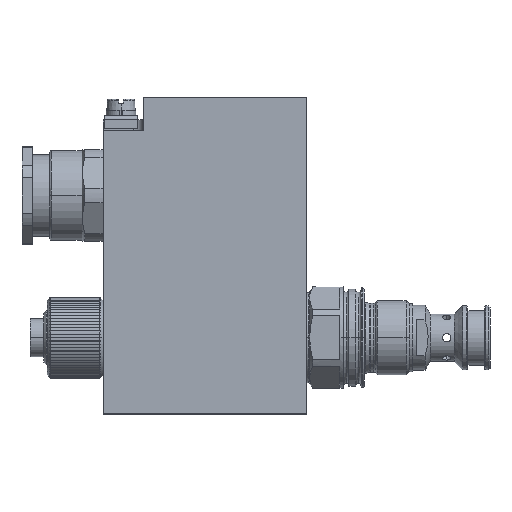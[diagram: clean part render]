
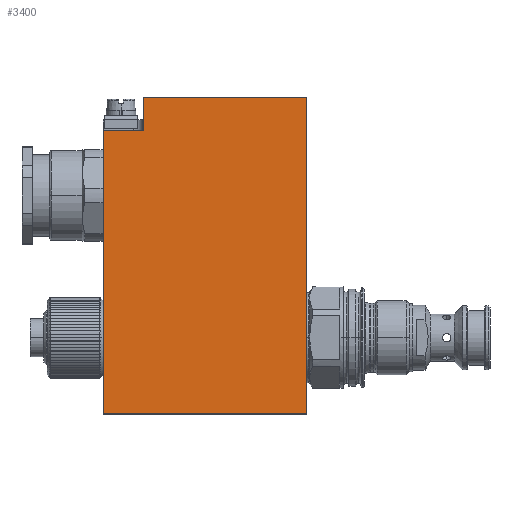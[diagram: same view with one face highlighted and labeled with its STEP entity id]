
A CAD part, top view. The second image highlights one B-rep face of the part: STEP entity #3400.
In plain terms, the highlighted planar face has unit normal (0, 0, 1).
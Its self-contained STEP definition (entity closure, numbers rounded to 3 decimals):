
#1910 = ORIENTED_EDGE ( 'NONE', *, *, #39352, .F. ) ;
#1943 = CARTESIAN_POINT ( 'NONE',  ( -77.2, 61.3, 22.5 ) ) ;
#2178 = CARTESIAN_POINT ( 'NONE',  ( -17.2, -22.5, 22.5 ) ) ;
#2269 = VECTOR ( 'NONE', #18719, 1000. ) ;
#2512 = LINE ( 'NONE', #2893, #35502 ) ;
#2893 = CARTESIAN_POINT ( 'NONE',  ( -17.2, -22.5, 22.5 ) ) ;
#3400 = ADVANCED_FACE ( 'NONE', ( #29168 ), #36971, .F. ) ;
#4233 = EDGE_LOOP ( 'NONE', ( #25471, #41135, #1910, #33881, #7897, #30890 ) ) ;
#4430 = DIRECTION ( 'NONE',  ( 0., 0., -1. ) ) ;
#5038 = CARTESIAN_POINT ( 'NONE',  ( -77.2, -22.5, 22.5 ) ) ;
#5923 = VERTEX_POINT ( 'NONE', #34960 ) ;
#6158 = VECTOR ( 'NONE', #25172, 1000. ) ;
#7897 = ORIENTED_EDGE ( 'NONE', *, *, #41282, .F. ) ;
#9808 = CARTESIAN_POINT ( 'NONE',  ( -17.2, -22.5, 22.5 ) ) ;
#12140 = VERTEX_POINT ( 'NONE', #27254 ) ;
#12798 = VECTOR ( 'NONE', #39954, 1000. ) ;
#14026 = VERTEX_POINT ( 'NONE', #5038 ) ;
#15352 = CARTESIAN_POINT ( 'NONE',  ( -77.2, -22.5, 22.5 ) ) ;
#18719 = DIRECTION ( 'NONE',  ( 0., -1., 0. ) ) ;
#19036 = LINE ( 'NONE', #1943, #26708 ) ;
#20235 = VERTEX_POINT ( 'NONE', #33893 ) ;
#20995 = DIRECTION ( 'NONE',  ( -1., 0., 0. ) ) ;
#21688 = LINE ( 'NONE', #36557, #12798 ) ;
#23817 = LINE ( 'NONE', #38054, #6158 ) ;
#25041 = DIRECTION ( 'NONE',  ( 1., 0., 0. ) ) ;
#25172 = DIRECTION ( 'NONE',  ( -1., 0., 0. ) ) ;
#25471 = ORIENTED_EDGE ( 'NONE', *, *, #41079, .T. ) ;
#26708 = VECTOR ( 'NONE', #25041, 1000. ) ;
#27254 = CARTESIAN_POINT ( 'NONE',  ( -77.2, 61.3, 22.5 ) ) ;
#29168 = FACE_OUTER_BOUND ( 'NONE', #4233, .T. ) ;
#30725 = CARTESIAN_POINT ( 'NONE',  ( -65.2, 61.3, 22.5 ) ) ;
#30890 = ORIENTED_EDGE ( 'NONE', *, *, #41346, .F. ) ;
#31435 = VECTOR ( 'NONE', #39499, 1000. ) ;
#33881 = ORIENTED_EDGE ( 'NONE', *, *, #39886, .T. ) ;
#33893 = CARTESIAN_POINT ( 'NONE',  ( -17.2, 70.8, 22.5 ) ) ;
#34960 = CARTESIAN_POINT ( 'NONE',  ( -17.2, -22.5, 22.5 ) ) ;
#35502 = VECTOR ( 'NONE', #38929, 1000. ) ;
#36043 = VERTEX_POINT ( 'NONE', #39679 ) ;
#36557 = CARTESIAN_POINT ( 'NONE',  ( -65.2, 61.3, 22.5 ) ) ;
#36971 = PLANE ( 'NONE',  #38258 ) ;
#37297 = LINE ( 'NONE', #15352, #2269 ) ;
#38054 = CARTESIAN_POINT ( 'NONE',  ( -17.2, 70.8, 22.5 ) ) ;
#38062 = EDGE_CURVE ( 'NONE', #41986, #36043, #21688, .T. ) ;
#38258 = AXIS2_PLACEMENT_3D ( 'NONE', #2178, #4430, #20995 ) ;
#38929 = DIRECTION ( 'NONE',  ( -1., 0., 0. ) ) ;
#39352 = EDGE_CURVE ( 'NONE', #12140, #41986, #19036, .T. ) ;
#39499 = DIRECTION ( 'NONE',  ( 0., -1., 0. ) ) ;
#39679 = CARTESIAN_POINT ( 'NONE',  ( -65.2, 70.8, 22.5 ) ) ;
#39886 = EDGE_CURVE ( 'NONE', #12140, #14026, #37297, .T. ) ;
#39954 = DIRECTION ( 'NONE',  ( 0., 1., 0. ) ) ;
#41079 = EDGE_CURVE ( 'NONE', #20235, #36043, #23817, .T. ) ;
#41135 = ORIENTED_EDGE ( 'NONE', *, *, #38062, .F. ) ;
#41226 = LINE ( 'NONE', #9808, #31435 ) ;
#41282 = EDGE_CURVE ( 'NONE', #5923, #14026, #2512, .T. ) ;
#41346 = EDGE_CURVE ( 'NONE', #20235, #5923, #41226, .T. ) ;
#41986 = VERTEX_POINT ( 'NONE', #30725 ) ;
